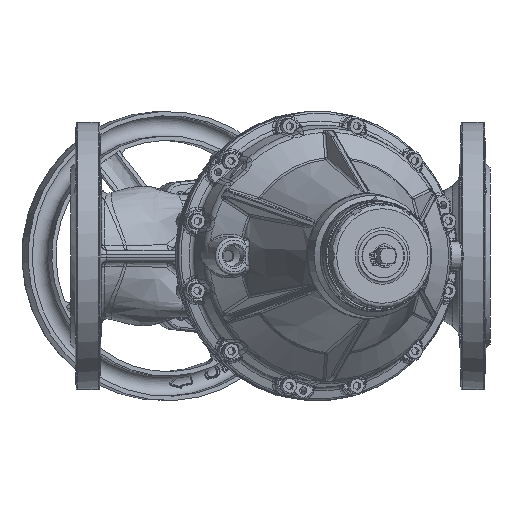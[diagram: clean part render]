
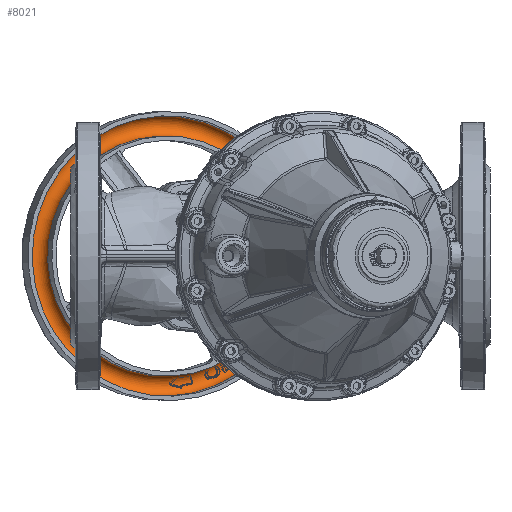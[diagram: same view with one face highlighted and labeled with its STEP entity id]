
A CAD part, front view. The second image highlights one B-rep face of the part: STEP entity #8021.
In plain terms, the highlighted toroidal (fillet/blend) face has major radius 90 mm and minor radius 7 mm.
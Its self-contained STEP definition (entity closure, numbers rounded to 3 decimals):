
#7220 = VERTEX_POINT ( 'NONE', #7259 ) ;
#7259 = CARTESIAN_POINT ( 'NONE',  ( 6.125, 292.776, 52.301 ) ) ;
#7305 = CARTESIAN_POINT ( 'NONE',  ( -5.264, 289.724, 44.753 ) ) ;
#7308 = VERTEX_POINT ( 'NONE', #7305 ) ;
#7944 = EDGE_CURVE ( 'NONE', #7220, #7220, #71248, .T. ) ;
#8008 = EDGE_LOOP ( 'NONE', ( #8010 ) ) ;
#8010 = ORIENTED_EDGE ( 'NONE', *, *, #8032, .F. ) ;
#8021 = ADVANCED_FACE ( 'NONE', ( #71402, #71456 ), #71951, .F. ) ;
#8032 = EDGE_CURVE ( 'NONE', #7308, #7308, #72056, .T. ) ;
#8056 = EDGE_LOOP ( 'NONE', ( #8057 ) ) ;
#8057 = ORIENTED_EDGE ( 'NONE', *, *, #7944, .T. ) ;
#71248 = CIRCLE ( 'NONE', #71323, 97. ) ;
#71318 = DIRECTION ( 'NONE',  ( 0.813, 0.218, 0.539 ) ) ;
#71320 = DIRECTION ( 'NONE',  ( 0.259, -0.966, 0. ) ) ;
#71321 = CARTESIAN_POINT ( 'NONE',  ( -72.784, 271.632, 0. ) ) ;
#71323 = AXIS2_PLACEMENT_3D ( 'NONE', #71321, #71320, #71318 ) ;
#71402 = FACE_OUTER_BOUND ( 'NONE', #8008, .T. ) ;
#71456 = FACE_OUTER_BOUND ( 'NONE', #8056, .T. ) ;
#71838 = DIRECTION ( 'NONE',  ( 0.813, 0.218, 0.539 ) ) ;
#71851 = CARTESIAN_POINT ( 'NONE',  ( -72.784, 271.632, 0. ) ) ;
#71856 = DIRECTION ( 'NONE',  ( 0.259, -0.966, 0. ) ) ;
#71943 = AXIS2_PLACEMENT_3D ( 'NONE', #71851, #71856, #71838 ) ;
#71951 = TOROIDAL_SURFACE ( 'NONE', #71943, 90., 7. ) ;
#72013 = AXIS2_PLACEMENT_3D ( 'NONE', #72054, #72053, #72051 ) ;
#72051 = DIRECTION ( 'NONE',  ( 0.813, 0.218, 0.539 ) ) ;
#72053 = DIRECTION ( 'NONE',  ( 0.259, -0.966, 0. ) ) ;
#72054 = CARTESIAN_POINT ( 'NONE',  ( -72.784, 271.632, 0. ) ) ;
#72056 = CIRCLE ( 'NONE', #72013, 83. ) ;
